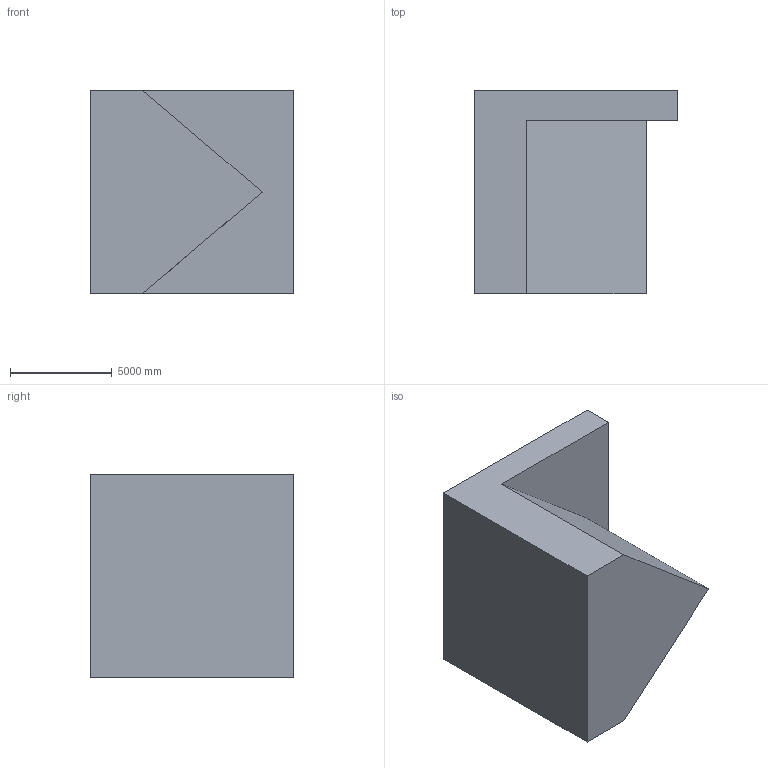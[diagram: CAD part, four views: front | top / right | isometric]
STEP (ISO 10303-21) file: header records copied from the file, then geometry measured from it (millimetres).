
FILE_DESCRIPTION (( 'STEP AP203' ), '1' );
FILE_NAME ('5.STEP', '2022-08-30T13:59:45', ( 'user' ), ( '' ), 'SwSTEP 2.0', 'SolidWorks 2021', '' );
FILE_SCHEMA (( 'CONFIG_CONTROL_DESIGN' ));
Length unit declared in the file: centimetre
Products named in the file (1): 5
Bounding box: 10000 x 10000 x 10000 mm (x, y, z)
Volume: 550905629606.2 mm3; surface area: 580857453.9 mm2
Topology: 1 solids, 1 shells, 16 faces, 42 edges, 28 vertices
Faces by surface type: plane 16
Entity records: 563 total; most frequent: CARTESIAN_POINT 87, ORIENTED_EDGE 84, DIRECTION 76, LINE 42, EDGE_CURVE 42, VECTOR 42, VERTEX_POINT 28, AXIS2_PLACEMENT_3D 17
